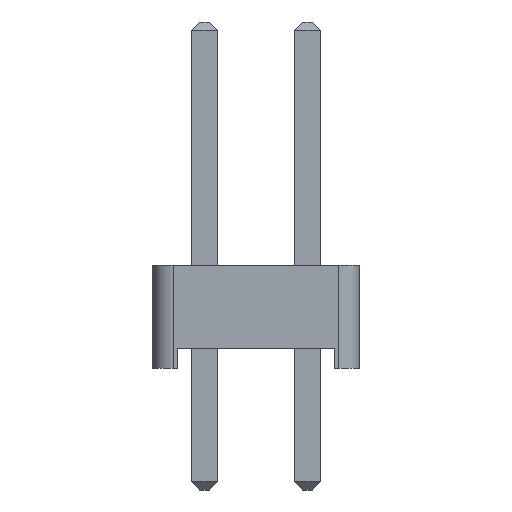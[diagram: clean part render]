
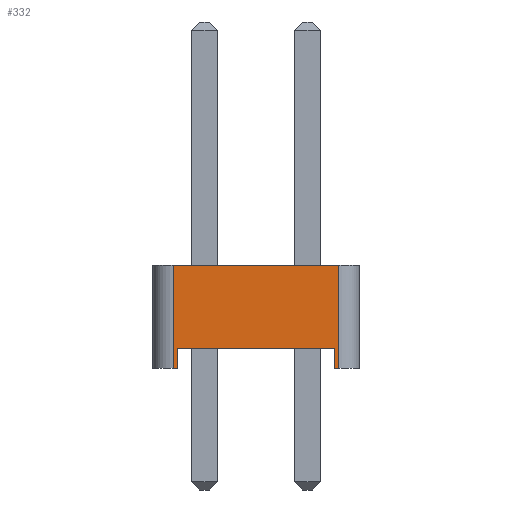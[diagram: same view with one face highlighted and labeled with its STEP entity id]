
A CAD part, left-side view. The second image highlights one B-rep face of the part: STEP entity #332.
In plain terms, the highlighted planar face has unit normal (-1, 0, 0).
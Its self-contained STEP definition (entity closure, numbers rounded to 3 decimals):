
#72 = VERTEX_POINT('',#73);
#73 = CARTESIAN_POINT('',(-1.27,2.04,0.));
#81 = PLANE('',#82);
#82 = AXIS2_PLACEMENT_3D('',#83,#84,#85);
#83 = CARTESIAN_POINT('',(0.,0.,0.));
#84 = DIRECTION('',(-0.,-0.,-1.));
#85 = DIRECTION('',(-1.,0.,0.));
#97 = CYLINDRICAL_SURFACE('',#98,0.5);
#98 = AXIS2_PLACEMENT_3D('',#99,#100,#101);
#99 = CARTESIAN_POINT('',(-0.77,2.04,0.));
#100 = DIRECTION('',(0.,0.,1.));
#101 = DIRECTION('',(0.,1.,0.));
#199 = VERTEX_POINT('',#200);
#200 = CARTESIAN_POINT('',(-1.27,1.94,0.));
#214 = PLANE('',#215);
#215 = AXIS2_PLACEMENT_3D('',#216,#217,#218);
#216 = CARTESIAN_POINT('',(1.27,1.94,0.));
#217 = DIRECTION('',(0.,-1.,0.));
#218 = DIRECTION('',(-1.,0.,0.));
#226 = EDGE_CURVE('',#199,#72,#227,.T.);
#227 = SURFACE_CURVE('',#228,(#232,#239),.PCURVE_S1.);
#228 = LINE('',#229,#230);
#229 = CARTESIAN_POINT('',(-1.27,-2.54,0.));
#230 = VECTOR('',#231,1.);
#231 = DIRECTION('',(0.,1.,0.));
#232 = PCURVE('',#81,#233);
#233 = DEFINITIONAL_REPRESENTATION('',(#234),#238);
#234 = LINE('',#235,#236);
#235 = CARTESIAN_POINT('',(1.27,-2.54));
#236 = VECTOR('',#237,1.);
#237 = DIRECTION('',(0.,1.));
#238 = ( GEOMETRIC_REPRESENTATION_CONTEXT(2) 
PARAMETRIC_REPRESENTATION_CONTEXT() REPRESENTATION_CONTEXT('2D SPACE',''
  ) );
#239 = PCURVE('',#240,#245);
#240 = PLANE('',#241);
#241 = AXIS2_PLACEMENT_3D('',#242,#243,#244);
#242 = CARTESIAN_POINT('',(-1.27,-2.54,0.));
#243 = DIRECTION('',(-1.,0.,0.));
#244 = DIRECTION('',(0.,1.,0.));
#245 = DEFINITIONAL_REPRESENTATION('',(#246),#250);
#246 = LINE('',#247,#248);
#247 = CARTESIAN_POINT('',(0.,0.));
#248 = VECTOR('',#249,1.);
#249 = DIRECTION('',(1.,0.));
#250 = ( GEOMETRIC_REPRESENTATION_CONTEXT(2) 
PARAMETRIC_REPRESENTATION_CONTEXT() REPRESENTATION_CONTEXT('2D SPACE',''
  ) );
#256 = EDGE_CURVE('',#72,#257,#259,.T.);
#257 = VERTEX_POINT('',#258);
#258 = CARTESIAN_POINT('',(-1.27,2.04,2.54));
#259 = SURFACE_CURVE('',#260,(#264,#271),.PCURVE_S1.);
#260 = LINE('',#261,#262);
#261 = CARTESIAN_POINT('',(-1.27,2.04,0.));
#262 = VECTOR('',#263,1.);
#263 = DIRECTION('',(0.,0.,1.));
#264 = PCURVE('',#97,#265);
#265 = DEFINITIONAL_REPRESENTATION('',(#266),#270);
#266 = LINE('',#267,#268);
#267 = CARTESIAN_POINT('',(1.571,0.));
#268 = VECTOR('',#269,1.);
#269 = DIRECTION('',(0.,1.));
#270 = ( GEOMETRIC_REPRESENTATION_CONTEXT(2) 
PARAMETRIC_REPRESENTATION_CONTEXT() REPRESENTATION_CONTEXT('2D SPACE',''
  ) );
#271 = PCURVE('',#240,#272);
#272 = DEFINITIONAL_REPRESENTATION('',(#273),#277);
#273 = LINE('',#274,#275);
#274 = CARTESIAN_POINT('',(4.58,0.));
#275 = VECTOR('',#276,1.);
#276 = DIRECTION('',(0.,-1.));
#277 = ( GEOMETRIC_REPRESENTATION_CONTEXT(2) 
PARAMETRIC_REPRESENTATION_CONTEXT() REPRESENTATION_CONTEXT('2D SPACE',''
  ) );
#296 = PLANE('',#297);
#297 = AXIS2_PLACEMENT_3D('',#298,#299,#300);
#298 = CARTESIAN_POINT('',(0.,0.,2.54));
#299 = DIRECTION('',(-0.,-0.,-1.));
#300 = DIRECTION('',(-1.,0.,0.));
#332 = ADVANCED_FACE('',(#333),#240,.T.);
#333 = FACE_BOUND('',#334,.T.);
#334 = EDGE_LOOP('',(#335,#365,#393,#414,#415,#416,#439,#467));
#335 = ORIENTED_EDGE('',*,*,#336,.F.);
#336 = EDGE_CURVE('',#337,#339,#341,.T.);
#337 = VERTEX_POINT('',#338);
#338 = CARTESIAN_POINT('',(-1.27,-2.04,0.));
#339 = VERTEX_POINT('',#340);
#340 = CARTESIAN_POINT('',(-1.27,-1.94,0.));
#341 = SURFACE_CURVE('',#342,(#346,#353),.PCURVE_S1.);
#342 = LINE('',#343,#344);
#343 = CARTESIAN_POINT('',(-1.27,-2.54,0.));
#344 = VECTOR('',#345,1.);
#345 = DIRECTION('',(0.,1.,0.));
#346 = PCURVE('',#240,#347);
#347 = DEFINITIONAL_REPRESENTATION('',(#348),#352);
#348 = LINE('',#349,#350);
#349 = CARTESIAN_POINT('',(0.,0.));
#350 = VECTOR('',#351,1.);
#351 = DIRECTION('',(1.,0.));
#352 = ( GEOMETRIC_REPRESENTATION_CONTEXT(2) 
PARAMETRIC_REPRESENTATION_CONTEXT() REPRESENTATION_CONTEXT('2D SPACE',''
  ) );
#353 = PCURVE('',#354,#359);
#354 = PLANE('',#355);
#355 = AXIS2_PLACEMENT_3D('',#356,#357,#358);
#356 = CARTESIAN_POINT('',(0.,0.,0.));
#357 = DIRECTION('',(-0.,-0.,-1.));
#358 = DIRECTION('',(-1.,0.,0.));
#359 = DEFINITIONAL_REPRESENTATION('',(#360),#364);
#360 = LINE('',#361,#362);
#361 = CARTESIAN_POINT('',(1.27,-2.54));
#362 = VECTOR('',#363,1.);
#363 = DIRECTION('',(0.,1.));
#364 = ( GEOMETRIC_REPRESENTATION_CONTEXT(2) 
PARAMETRIC_REPRESENTATION_CONTEXT() REPRESENTATION_CONTEXT('2D SPACE',''
  ) );
#365 = ORIENTED_EDGE('',*,*,#366,.T.);
#366 = EDGE_CURVE('',#337,#367,#369,.T.);
#367 = VERTEX_POINT('',#368);
#368 = CARTESIAN_POINT('',(-1.27,-2.04,2.54));
#369 = SURFACE_CURVE('',#370,(#374,#381),.PCURVE_S1.);
#370 = LINE('',#371,#372);
#371 = CARTESIAN_POINT('',(-1.27,-2.04,0.));
#372 = VECTOR('',#373,1.);
#373 = DIRECTION('',(0.,0.,1.));
#374 = PCURVE('',#240,#375);
#375 = DEFINITIONAL_REPRESENTATION('',(#376),#380);
#376 = LINE('',#377,#378);
#377 = CARTESIAN_POINT('',(0.5,0.));
#378 = VECTOR('',#379,1.);
#379 = DIRECTION('',(0.,-1.));
#380 = ( GEOMETRIC_REPRESENTATION_CONTEXT(2) 
PARAMETRIC_REPRESENTATION_CONTEXT() REPRESENTATION_CONTEXT('2D SPACE',''
  ) );
#381 = PCURVE('',#382,#387);
#382 = CYLINDRICAL_SURFACE('',#383,0.5);
#383 = AXIS2_PLACEMENT_3D('',#384,#385,#386);
#384 = CARTESIAN_POINT('',(-0.77,-2.04,0.));
#385 = DIRECTION('',(0.,0.,1.));
#386 = DIRECTION('',(0.,-1.,0.));
#387 = DEFINITIONAL_REPRESENTATION('',(#388),#392);
#388 = LINE('',#389,#390);
#389 = CARTESIAN_POINT('',(-1.571,0.));
#390 = VECTOR('',#391,1.);
#391 = DIRECTION('',(-0.,1.));
#392 = ( GEOMETRIC_REPRESENTATION_CONTEXT(2) 
PARAMETRIC_REPRESENTATION_CONTEXT() REPRESENTATION_CONTEXT('2D SPACE',''
  ) );
#393 = ORIENTED_EDGE('',*,*,#394,.T.);
#394 = EDGE_CURVE('',#367,#257,#395,.T.);
#395 = SURFACE_CURVE('',#396,(#400,#407),.PCURVE_S1.);
#396 = LINE('',#397,#398);
#397 = CARTESIAN_POINT('',(-1.27,-2.54,2.54));
#398 = VECTOR('',#399,1.);
#399 = DIRECTION('',(0.,1.,0.));
#400 = PCURVE('',#240,#401);
#401 = DEFINITIONAL_REPRESENTATION('',(#402),#406);
#402 = LINE('',#403,#404);
#403 = CARTESIAN_POINT('',(0.,-2.54));
#404 = VECTOR('',#405,1.);
#405 = DIRECTION('',(1.,0.));
#406 = ( GEOMETRIC_REPRESENTATION_CONTEXT(2) 
PARAMETRIC_REPRESENTATION_CONTEXT() REPRESENTATION_CONTEXT('2D SPACE',''
  ) );
#407 = PCURVE('',#296,#408);
#408 = DEFINITIONAL_REPRESENTATION('',(#409),#413);
#409 = LINE('',#410,#411);
#410 = CARTESIAN_POINT('',(1.27,-2.54));
#411 = VECTOR('',#412,1.);
#412 = DIRECTION('',(0.,1.));
#413 = ( GEOMETRIC_REPRESENTATION_CONTEXT(2) 
PARAMETRIC_REPRESENTATION_CONTEXT() REPRESENTATION_CONTEXT('2D SPACE',''
  ) );
#414 = ORIENTED_EDGE('',*,*,#256,.F.);
#415 = ORIENTED_EDGE('',*,*,#226,.F.);
#416 = ORIENTED_EDGE('',*,*,#417,.T.);
#417 = EDGE_CURVE('',#199,#418,#420,.T.);
#418 = VERTEX_POINT('',#419);
#419 = CARTESIAN_POINT('',(-1.27,1.94,0.5));
#420 = SURFACE_CURVE('',#421,(#425,#432),.PCURVE_S1.);
#421 = LINE('',#422,#423);
#422 = CARTESIAN_POINT('',(-1.27,1.94,0.));
#423 = VECTOR('',#424,1.);
#424 = DIRECTION('',(0.,0.,1.));
#425 = PCURVE('',#240,#426);
#426 = DEFINITIONAL_REPRESENTATION('',(#427),#431);
#427 = LINE('',#428,#429);
#428 = CARTESIAN_POINT('',(4.48,0.));
#429 = VECTOR('',#430,1.);
#430 = DIRECTION('',(0.,-1.));
#431 = ( GEOMETRIC_REPRESENTATION_CONTEXT(2) 
PARAMETRIC_REPRESENTATION_CONTEXT() REPRESENTATION_CONTEXT('2D SPACE',''
  ) );
#432 = PCURVE('',#214,#433);
#433 = DEFINITIONAL_REPRESENTATION('',(#434),#438);
#434 = LINE('',#435,#436);
#435 = CARTESIAN_POINT('',(2.54,0.));
#436 = VECTOR('',#437,1.);
#437 = DIRECTION('',(0.,-1.));
#438 = ( GEOMETRIC_REPRESENTATION_CONTEXT(2) 
PARAMETRIC_REPRESENTATION_CONTEXT() REPRESENTATION_CONTEXT('2D SPACE',''
  ) );
#439 = ORIENTED_EDGE('',*,*,#440,.T.);
#440 = EDGE_CURVE('',#418,#441,#443,.T.);
#441 = VERTEX_POINT('',#442);
#442 = CARTESIAN_POINT('',(-1.27,-1.94,0.5));
#443 = SURFACE_CURVE('',#444,(#448,#455),.PCURVE_S1.);
#444 = LINE('',#445,#446);
#445 = CARTESIAN_POINT('',(-1.27,1.94,0.5));
#446 = VECTOR('',#447,1.);
#447 = DIRECTION('',(0.,-1.,0.));
#448 = PCURVE('',#240,#449);
#449 = DEFINITIONAL_REPRESENTATION('',(#450),#454);
#450 = LINE('',#451,#452);
#451 = CARTESIAN_POINT('',(4.48,-0.5));
#452 = VECTOR('',#453,1.);
#453 = DIRECTION('',(-1.,0.));
#454 = ( GEOMETRIC_REPRESENTATION_CONTEXT(2) 
PARAMETRIC_REPRESENTATION_CONTEXT() REPRESENTATION_CONTEXT('2D SPACE',''
  ) );
#455 = PCURVE('',#456,#461);
#456 = PLANE('',#457);
#457 = AXIS2_PLACEMENT_3D('',#458,#459,#460);
#458 = CARTESIAN_POINT('',(0.,0.,0.5));
#459 = DIRECTION('',(0.,0.,1.));
#460 = DIRECTION('',(1.,0.,0.));
#461 = DEFINITIONAL_REPRESENTATION('',(#462),#466);
#462 = LINE('',#463,#464);
#463 = CARTESIAN_POINT('',(-1.27,1.94));
#464 = VECTOR('',#465,1.);
#465 = DIRECTION('',(0.,-1.));
#466 = ( GEOMETRIC_REPRESENTATION_CONTEXT(2) 
PARAMETRIC_REPRESENTATION_CONTEXT() REPRESENTATION_CONTEXT('2D SPACE',''
  ) );
#467 = ORIENTED_EDGE('',*,*,#468,.F.);
#468 = EDGE_CURVE('',#339,#441,#469,.T.);
#469 = SURFACE_CURVE('',#470,(#474,#481),.PCURVE_S1.);
#470 = LINE('',#471,#472);
#471 = CARTESIAN_POINT('',(-1.27,-1.94,0.));
#472 = VECTOR('',#473,1.);
#473 = DIRECTION('',(0.,0.,1.));
#474 = PCURVE('',#240,#475);
#475 = DEFINITIONAL_REPRESENTATION('',(#476),#480);
#476 = LINE('',#477,#478);
#477 = CARTESIAN_POINT('',(0.6,0.));
#478 = VECTOR('',#479,1.);
#479 = DIRECTION('',(0.,-1.));
#480 = ( GEOMETRIC_REPRESENTATION_CONTEXT(2) 
PARAMETRIC_REPRESENTATION_CONTEXT() REPRESENTATION_CONTEXT('2D SPACE',''
  ) );
#481 = PCURVE('',#482,#487);
#482 = PLANE('',#483);
#483 = AXIS2_PLACEMENT_3D('',#484,#485,#486);
#484 = CARTESIAN_POINT('',(-1.27,-1.94,0.));
#485 = DIRECTION('',(0.,1.,0.));
#486 = DIRECTION('',(1.,0.,0.));
#487 = DEFINITIONAL_REPRESENTATION('',(#488),#492);
#488 = LINE('',#489,#490);
#489 = CARTESIAN_POINT('',(0.,0.));
#490 = VECTOR('',#491,1.);
#491 = DIRECTION('',(0.,-1.));
#492 = ( GEOMETRIC_REPRESENTATION_CONTEXT(2) 
PARAMETRIC_REPRESENTATION_CONTEXT() REPRESENTATION_CONTEXT('2D SPACE',''
  ) );
